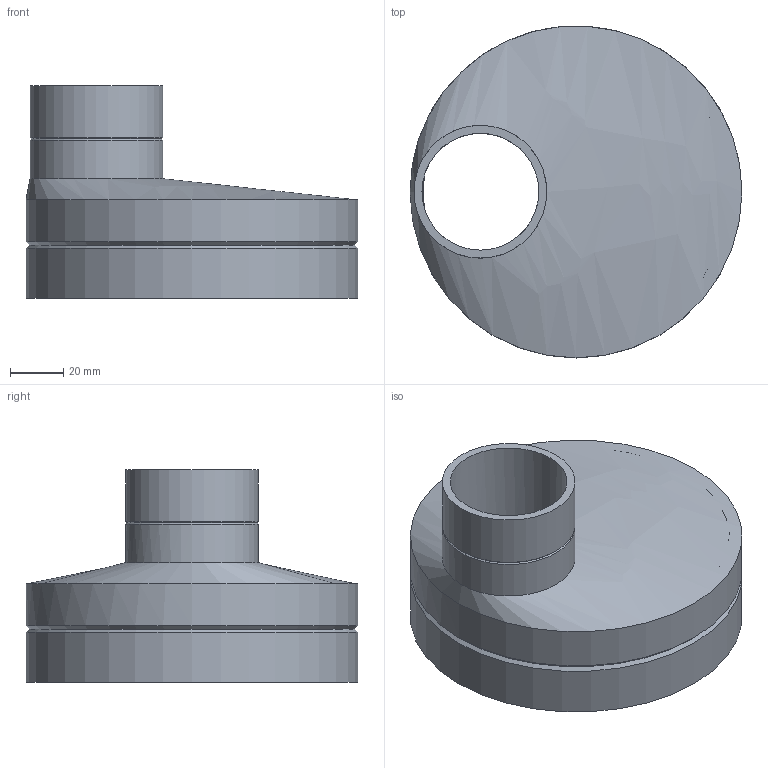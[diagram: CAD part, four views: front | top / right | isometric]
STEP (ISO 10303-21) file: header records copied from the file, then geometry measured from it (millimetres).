
FILE_DESCRIPTION(/* description */ (''),/* implementation_level */ '2;1');
FILE_NAME(/* name */ 'Z:\Geberit\Export\NewStep\368561.stp',/* time_stamp */ '2014-04-02T08:00:39+02:00',/* author */ ('nelson'),/* organization */ (''),/* preprocessor_version */ 'ST-DEVELOPER v15.2',/* originating_system */ 'Autodesk Inventor 2014',/* authorisation */ '');
FILE_SCHEMA (('AUTOMOTIVE_DESIGN { 1 0 10303 214 3 1 1 }'));
Length unit declared in the file: millimetre
Products named in the file (1): 368561
Bounding box: 125 x 125 x 80 mm (x, y, z)
Volume: 91835.6 mm3; surface area: 61250.7 mm2
Topology: 1 solids, 1 shells, 14 faces, 38 edges, 26 vertices
Faces by surface type: cylinder 6, cone 4, bspline 2, plane 2
Full cylindrical faces by diameter (mm): 44 x1, 50 x2, 115.2 x1, 125 x2
Entity records: 417 total; most frequent: CARTESIAN_POINT 93, DIRECTION 66, ORIENTED_EDGE 44, AXIS2_PLACEMENT_3D 33, EDGE_LOOP 26, EDGE_CURVE 22, CIRCLE 20, VERTEX_POINT 20
